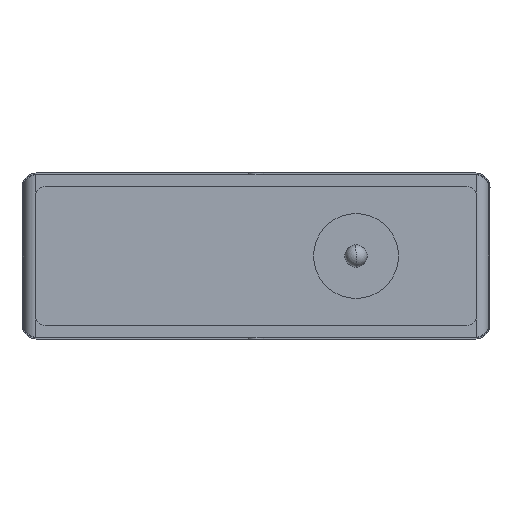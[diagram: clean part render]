
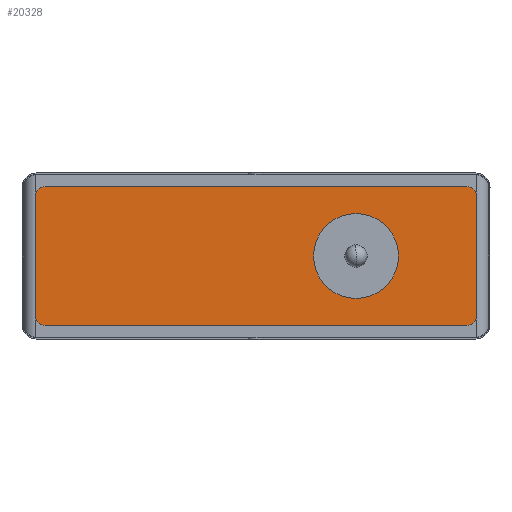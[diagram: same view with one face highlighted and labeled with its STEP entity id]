
A CAD part, front view. The second image highlights one B-rep face of the part: STEP entity #20328.
In plain terms, the highlighted planar face has unit normal (0, -1, 0).
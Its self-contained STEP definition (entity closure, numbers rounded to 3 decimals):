
#9141=CARTESIAN_POINT('',(62.231,-68.58,
-62.23));
#9142=DIRECTION('',(0.,1.,0.));
#9143=DIRECTION('',(-1.,0.,0.));
#9144=AXIS2_PLACEMENT_3D('',#9141,#9142,#9143);
#9146=CARTESIAN_POINT('',(1197.611,-68.58,
-62.234));
#9147=DIRECTION('',(0.,1.,0.));
#9148=DIRECTION('',(0.,0.,1.));
#9149=AXIS2_PLACEMENT_3D('',#9146,#9147,#9148);
#9151=CARTESIAN_POINT('',(1197.61,-68.58,
-384.814));
#9152=DIRECTION('',(0.,1.,0.));
#9153=DIRECTION('',(1.,0.,0.));
#9154=AXIS2_PLACEMENT_3D('',#9151,#9152,#9153);
#9156=DIRECTION('',(-1.,0.,0.));
#9157=VECTOR('',#9156,1135.38);
#9158=CARTESIAN_POINT('',(1197.61,-68.58,
-410.214));
#9159=LINE('',#9158,#9157);
#9160=CARTESIAN_POINT('',(62.23,-68.58,
-384.81));
#9161=DIRECTION('',(0.,1.,0.));
#9162=DIRECTION('',(0.,0.,-1.));
#9163=AXIS2_PLACEMENT_3D('',#9160,#9161,#9162);
#9165=CARTESIAN_POINT('',(899.161,-68.58,
-223.523));
#9166=DIRECTION('',(0.,-1.,0.));
#9167=DIRECTION('',(0.,0.,-1.));
#9168=AXIS2_PLACEMENT_3D('',#9165,#9166,#9167);
#9170=CARTESIAN_POINT('',(899.161,-68.58,
-223.523));
#9171=DIRECTION('',(0.,-1.,0.));
#9172=DIRECTION('',(0.,0.,1.));
#9173=AXIS2_PLACEMENT_3D('',#9170,#9171,#9172);
#9183=DIRECTION('',(-1.,0.,0.));
#9184=VECTOR('',#9183,1135.38);
#9185=CARTESIAN_POINT('',(1197.611,-68.58,
-36.834));
#9186=LINE('',#9185,#9184);
#9227=DIRECTION('',(0.,0.,1.));
#9228=VECTOR('',#9227,322.58);
#9229=CARTESIAN_POINT('',(1223.01,-68.58,
-384.814));
#9230=LINE('',#9229,#9228);
#9343=DIRECTION('',(0.,0.,-1.));
#9344=VECTOR('',#9343,322.58);
#9345=CARTESIAN_POINT('',(36.831,-68.58,
-62.23));
#9346=LINE('',#9345,#9344);
#11222=CARTESIAN_POINT('',(62.23,-68.58,
-410.21));
#11223=VERTEX_POINT('',#11222);
#11224=CARTESIAN_POINT('',(36.83,-68.58,
-384.81));
#11225=VERTEX_POINT('',#11224);
#11226=CARTESIAN_POINT('',(36.831,-68.58,
-62.23));
#11227=CARTESIAN_POINT('',(62.231,-68.58,
-36.83));
#11228=VERTEX_POINT('',#11226);
#11229=VERTEX_POINT('',#11227);
#11230=CARTESIAN_POINT('',(1197.611,-68.58,
-36.834));
#11231=VERTEX_POINT('',#11230);
#11232=CARTESIAN_POINT('',(1223.011,-68.58,
-62.234));
#11233=VERTEX_POINT('',#11232);
#11234=CARTESIAN_POINT('',(1223.01,-68.58,
-384.814));
#11235=VERTEX_POINT('',#11234);
#11236=CARTESIAN_POINT('',(1197.61,-68.58,
-410.214));
#11237=VERTEX_POINT('',#11236);
#11238=CARTESIAN_POINT('',(899.16,-68.58,
-337.823));
#11239=CARTESIAN_POINT('',(899.161,-68.58,
-109.223));
#11240=VERTEX_POINT('',#11238);
#11241=VERTEX_POINT('',#11239);
#20301=CARTESIAN_POINT('',(629.921,-68.58,
-223.522));
#20302=DIRECTION('',(0.,1.,0.));
#20303=DIRECTION('',(-1.,0.,0.));
#20304=AXIS2_PLACEMENT_3D('',#20301,#20302,#20303);
#20305=PLANE('',#20304);
#20307=ORIENTED_EDGE('',*,*,#20306,.T.);
#20309=ORIENTED_EDGE('',*,*,#20308,.F.);
#20311=ORIENTED_EDGE('',*,*,#20310,.T.);
#20313=ORIENTED_EDGE('',*,*,#20312,.F.);
#20315=ORIENTED_EDGE('',*,*,#20314,.T.);
#20316=ORIENTED_EDGE('',*,*,#20279,.T.);
#20317=ORIENTED_EDGE('',*,*,#20292,.T.);
#20319=ORIENTED_EDGE('',*,*,#20318,.F.);
#20320=EDGE_LOOP('',(#20307,#20309,#20311,#20313,#20315,#20316,#20317,#20319));
#20321=FACE_OUTER_BOUND('',#20320,.F.);
#20323=ORIENTED_EDGE('',*,*,#20322,.T.);
#20325=ORIENTED_EDGE('',*,*,#20324,.T.);
#20326=EDGE_LOOP('',(#20323,#20325));
#20327=FACE_BOUND('',#20326,.F.);
#20328=ADVANCED_FACE('',(#20321,#20327),#20305,.F.);
#9145=CIRCLE('',#9144,25.4);
#9150=CIRCLE('',#9149,25.4);
#9155=CIRCLE('',#9154,25.4);
#9164=CIRCLE('',#9163,25.4);
#9169=CIRCLE('',#9168,114.3);
#9174=CIRCLE('',#9173,114.3);
#20279=EDGE_CURVE('',#11237,#11223,#9159,.T.);
#20292=EDGE_CURVE('',#11223,#11225,#9164,.T.);
#20306=EDGE_CURVE('',#11228,#11229,#9145,.T.);
#20308=EDGE_CURVE('',#11231,#11229,#9186,.T.);
#20310=EDGE_CURVE('',#11231,#11233,#9150,.T.);
#20312=EDGE_CURVE('',#11235,#11233,#9230,.T.);
#20314=EDGE_CURVE('',#11235,#11237,#9155,.T.);
#20318=EDGE_CURVE('',#11228,#11225,#9346,.T.);
#20322=EDGE_CURVE('',#11240,#11241,#9169,.T.);
#20324=EDGE_CURVE('',#11241,#11240,#9174,.T.);
